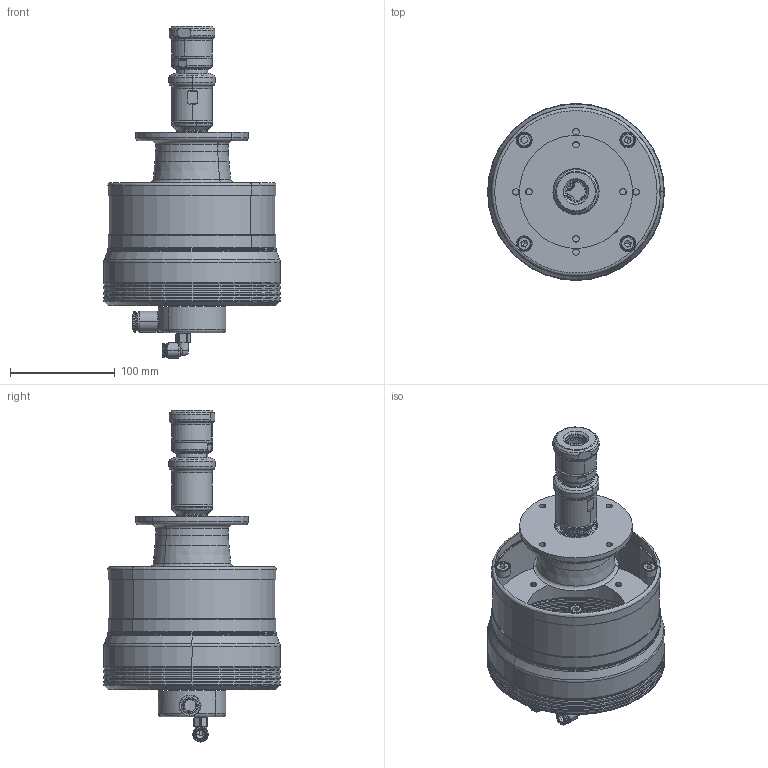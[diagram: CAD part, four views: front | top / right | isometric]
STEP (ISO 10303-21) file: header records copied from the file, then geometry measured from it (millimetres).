
FILE_DESCRIPTION (( 'STEP AP214' ), '1' );
FILE_NAME ('Rührwerksantrieb eco-Drive 1800 INOX mit Getriebe und  Schnellwechselsystem_6618+5050.STEP', '2024-04-10T13:30:37', ( '' ), ( '' ), 'SwSTEP 2.0', 'SolidWorks 2022', '' );
FILE_SCHEMA (( 'AUTOMOTIVE_DESIGN' ));
Length unit declared in the file: millimetre
Products named in the file (1): Rührwerksantrieb eco-Drive 1800 INOX mit Getriebe und  Schnellwechselsystem_6618+5050
Bounding box: 169 x 169 x 317.25 mm (x, y, z)
Surface area: 173569.1 mm2 (no closed solid volume)
Topology: 0 solids, 35 shells, 427 faces, 1164 edges, 742 vertices
Faces by surface type: cylinder 115, torus 112, cone 101, plane 91, bspline 7, sphere 1
Entity records: 21926 total; most frequent: CARTESIAN_POINT 6491, DIRECTION 2432, ORIENTED_EDGE 1964, EDGE_CURVE 1154, AXIS2_PLACEMENT_3D 1031, VERTEX_POINT 742, CIRCLE 610, EDGE_LOOP 491
